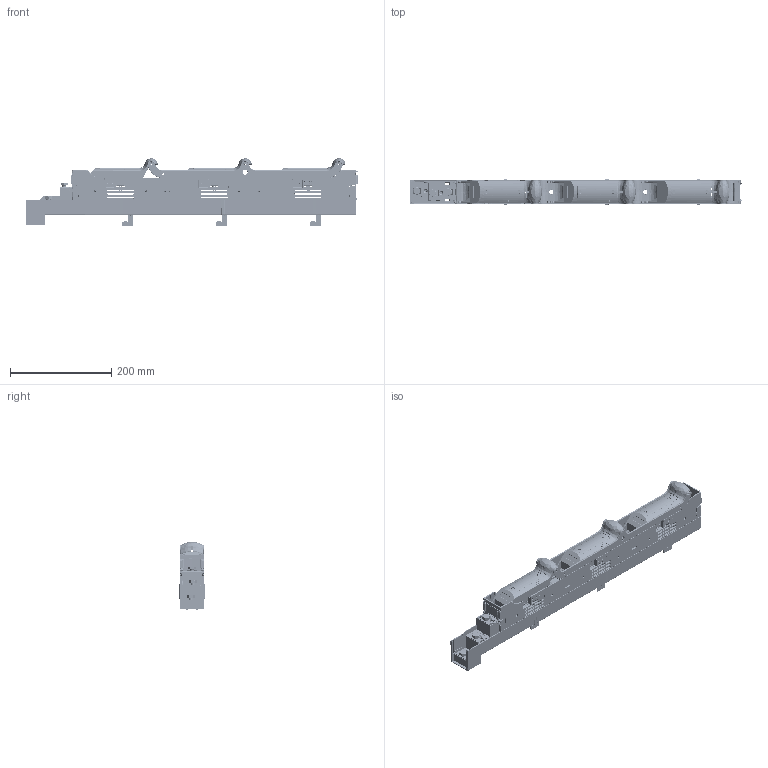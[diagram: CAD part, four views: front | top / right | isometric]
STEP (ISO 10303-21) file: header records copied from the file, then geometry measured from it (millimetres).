
FILE_DESCRIPTION (( 'STEP AP214' ), '1' );
FILE_NAME ('FSD00-33D-F__CS-FS00-3H__1.step', '2014-11-18T13:32:15', ( '' ), ( '' ), 'SwSTEP 2.0', 'SolidWorks 2011', '' );
FILE_SCHEMA (( 'AUTOMOTIVE_DESIGN' ));
Length unit declared in the file: millimetre
Products named in the file (1): FSD00-33D-F__CS-FS00-3H__1
Bounding box: 654.93 x 49.8 x 134.03 mm (x, y, z)
Volume: 605308.5 mm3; surface area: 683574.6 mm2
Topology: 29 solids, 29 shells, 10524 faces, 28683 edges, 18050 vertices
Faces by surface type: plane 5288, cylinder 2618, bspline 1420, cone 1198
Entity records: 501115 total; most frequent: CARTESIAN_POINT 136247, ORIENTED_EDGE 57168, DIRECTION 45104, EDGE_CURVE 28584, VERTEX_POINT 18050, LINE 17790, VECTOR 17790, AXIS2_PLACEMENT_3D 13657
